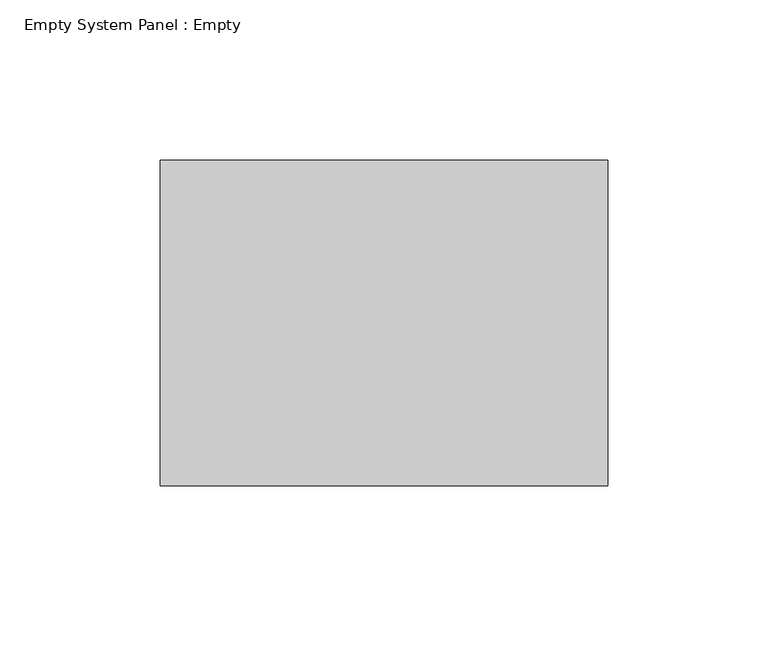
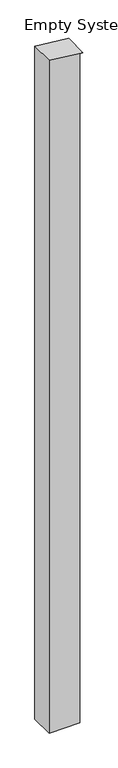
"""IFC4 building model written with IfcOpenShell, lengths in millimetres: plate geometry, Empty System Panel : Empty."""

from ifc_helpers import new_model, si_unit, frame, origin, place, context, project, spatial, polyline, outline, extrude, source, transform, mapped, element, save


def empty_system_panel_empty_433738f8(model_context):
    return source(origin(), model_context, "Body", "SweptSolid", [
        extrude(outline(polyline([(0.0, -69.85), (0.0, 57.15), (2928.8589695, 57.15), (2928.8589695, 69.85), (2944.4841595, -69.85), (0.0, -69.85)])), frame((0.0, -50.8, 0.0), z_axis=(0.0, 1.0, 0.0), x_axis=(0.0, 0.0, 1.0)), (0.0, 0.0, 1.0), 101.6),
    ])


if __name__ == "__main__":
    model = new_model("IFC4")
    model_context = context("Model", 3, world=origin())
    ifc_project = project(units=[si_unit("LENGTHUNIT", "METRE", prefix="MILLI")], contexts=[model_context])
    site = spatial("IfcSite", under=ifc_project)
    building = spatial("IfcBuilding", under=site)
    placement = place(None, origin())
    empty_system_panel_empty_shape = empty_system_panel_empty_433738f8(model_context)
    element("IfcPlate", 1, ObjectType="Empty System Panel : Empty", at=placement, inside=building, context=model_context, shape_type="MappedRepresentation", body=[
        mapped(empty_system_panel_empty_shape, transform((0.0, 0.0, 0.0), x_axis=(1.0, 0.0, 0.0), y_axis=(0.0, 1.0, 0.0), z_axis=(0.0, 0.0, 1.0))),
    ])
    save(model, "model.ifc")
